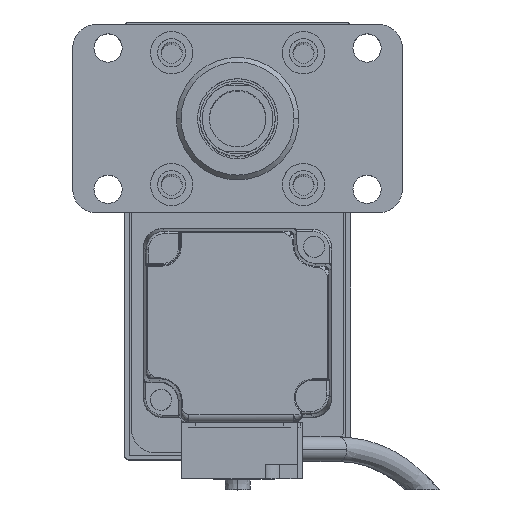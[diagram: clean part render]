
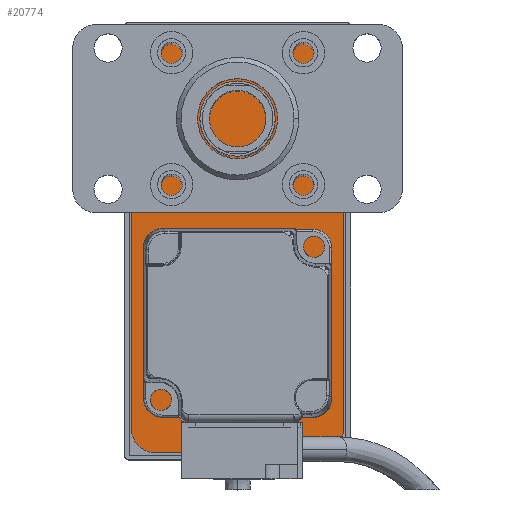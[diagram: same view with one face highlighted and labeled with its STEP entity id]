
A CAD part, top view. The second image highlights one B-rep face of the part: STEP entity #20774.
In plain terms, the highlighted planar face has unit normal (0, 0, 1).
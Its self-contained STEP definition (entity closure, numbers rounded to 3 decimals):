
#217 = EDGE_CURVE ( 'NONE', #19472, #11955, #22345, .T. ) ;
#604 = EDGE_CURVE ( 'NONE', #11955, #22505, #19030, .T. ) ;
#610 = EDGE_CURVE ( 'NONE', #22505, #1301, #4347, .T. ) ;
#717 = VERTEX_POINT ( 'NONE', #10461 ) ;
#740 = VECTOR ( 'NONE', #16967, 1000. ) ;
#964 = CARTESIAN_POINT ( 'NONE',  ( -22.5, 40., 10. ) ) ;
#1129 = VECTOR ( 'NONE', #12564, 1000. ) ;
#1301 = VERTEX_POINT ( 'NONE', #19038 ) ;
#1378 = CARTESIAN_POINT ( 'NONE',  ( 22.5, 45., 10. ) ) ;
#1933 = LINE ( 'NONE', #3612, #740 ) ;
#2913 = ORIENTED_EDGE ( 'NONE', *, *, #610, .T. ) ;
#3224 = EDGE_CURVE ( 'NONE', #1301, #14884, #8899, .T. ) ;
#3612 = CARTESIAN_POINT ( 'NONE',  ( -22.5, -45., 10. ) ) ;
#3725 = DIRECTION ( 'NONE',  ( -1., 0., 0. ) ) ;
#3841 = CARTESIAN_POINT ( 'NONE',  ( 22.5, 40., 10. ) ) ;
#4347 = CIRCLE ( 'NONE', #24178, 5. ) ;
#4769 = EDGE_LOOP ( 'NONE', ( #15951, #2913, #10448, #5896, #6684, #18350, #24344, #12888 ) ) ;
#5604 = DIRECTION ( 'NONE',  ( 0., 0., 1. ) ) ;
#5896 = ORIENTED_EDGE ( 'NONE', *, *, #20831, .T. ) ;
#6684 = ORIENTED_EDGE ( 'NONE', *, *, #11406, .T. ) ;
#7538 = DIRECTION ( 'NONE',  ( 0., 0., 1. ) ) ;
#8043 = DIRECTION ( 'NONE',  ( 1., 0., 0. ) ) ;
#8874 = DIRECTION ( 'NONE',  ( 0., 0., 1. ) ) ;
#8899 = LINE ( 'NONE', #1378, #20621 ) ;
#9199 = EDGE_CURVE ( 'NONE', #9472, #717, #12901, .T. ) ;
#9421 = CARTESIAN_POINT ( 'NONE',  ( 17.5, -40., 10. ) ) ;
#9472 = VERTEX_POINT ( 'NONE', #10464 ) ;
#9806 = CARTESIAN_POINT ( 'NONE',  ( -17.5, -40., 10. ) ) ;
#9971 = DIRECTION ( 'NONE',  ( 1., 0., 0. ) ) ;
#10448 = ORIENTED_EDGE ( 'NONE', *, *, #3224, .T. ) ;
#10461 = CARTESIAN_POINT ( 'NONE',  ( -17.5, -45., 10. ) ) ;
#10464 = CARTESIAN_POINT ( 'NONE',  ( -22.5, -40., 10. ) ) ;
#10680 = CARTESIAN_POINT ( 'NONE',  ( 22.5, -45., 10. ) ) ;
#11073 = AXIS2_PLACEMENT_3D ( 'NONE', #9806, #15455, #8043 ) ;
#11406 = EDGE_CURVE ( 'NONE', #12047, #9472, #1933, .T. ) ;
#11955 = VERTEX_POINT ( 'NONE', #18151 ) ;
#12047 = VERTEX_POINT ( 'NONE', #964 ) ;
#12545 = LINE ( 'NONE', #24057, #1129 ) ;
#12564 = DIRECTION ( 'NONE',  ( 1., 0., 0. ) ) ;
#12746 = AXIS2_PLACEMENT_3D ( 'NONE', #9421, #13548, #23042 ) ;
#12888 = ORIENTED_EDGE ( 'NONE', *, *, #217, .T. ) ;
#12901 = CIRCLE ( 'NONE', #11073, 5. ) ;
#12970 = CIRCLE ( 'NONE', #23280, 5. ) ;
#13248 = CARTESIAN_POINT ( 'NONE',  ( 17.5, 40., 10. ) ) ;
#13504 = CARTESIAN_POINT ( 'NONE',  ( 0., 0., 10. ) ) ;
#13548 = DIRECTION ( 'NONE',  ( 0., 0., 1. ) ) ;
#14884 = VERTEX_POINT ( 'NONE', #17906 ) ;
#15375 = FACE_OUTER_BOUND ( 'NONE', #4769, .T. ) ;
#15455 = DIRECTION ( 'NONE',  ( 0., 0., 1. ) ) ;
#15951 = ORIENTED_EDGE ( 'NONE', *, *, #604, .T. ) ;
#16040 = CARTESIAN_POINT ( 'NONE',  ( -17.5, 40., 10. ) ) ;
#16707 = DIRECTION ( 'NONE',  ( 1., 0., 0. ) ) ;
#16967 = DIRECTION ( 'NONE',  ( 0., -1., 0. ) ) ;
#17906 = CARTESIAN_POINT ( 'NONE',  ( -17.5, 45., 10. ) ) ;
#18151 = CARTESIAN_POINT ( 'NONE',  ( 22.5, -40., 10. ) ) ;
#18350 = ORIENTED_EDGE ( 'NONE', *, *, #9199, .T. ) ;
#18394 = DIRECTION ( 'NONE',  ( 0., 1., 0. ) ) ;
#19016 = EDGE_CURVE ( 'NONE', #717, #19472, #12545, .T. ) ;
#19030 = LINE ( 'NONE', #10680, #21140 ) ;
#19038 = CARTESIAN_POINT ( 'NONE',  ( 17.5, 45., 10. ) ) ;
#19472 = VERTEX_POINT ( 'NONE', #23940 ) ;
#20621 = VECTOR ( 'NONE', #3725, 1000. ) ;
#20774 = ADVANCED_FACE ( 'NONE', ( #15375 ), #21150, .T. ) ;
#20831 = EDGE_CURVE ( 'NONE', #14884, #12047, #12970, .T. ) ;
#21140 = VECTOR ( 'NONE', #18394, 1000. ) ;
#21150 = PLANE ( 'NONE',  #22004 ) ;
#22004 = AXIS2_PLACEMENT_3D ( 'NONE', #13504, #7538, #9971 ) ;
#22345 = CIRCLE ( 'NONE', #12746, 5. ) ;
#22505 = VERTEX_POINT ( 'NONE', #3841 ) ;
#22906 = DIRECTION ( 'NONE',  ( 1., 0., 0. ) ) ;
#23042 = DIRECTION ( 'NONE',  ( 1., 0., 0. ) ) ;
#23280 = AXIS2_PLACEMENT_3D ( 'NONE', #16040, #8874, #16707 ) ;
#23940 = CARTESIAN_POINT ( 'NONE',  ( 17.5, -45., 10. ) ) ;
#24057 = CARTESIAN_POINT ( 'NONE',  ( 22.5, -45., 10. ) ) ;
#24178 = AXIS2_PLACEMENT_3D ( 'NONE', #13248, #5604, #22906 ) ;
#24344 = ORIENTED_EDGE ( 'NONE', *, *, #19016, .T. ) ;
